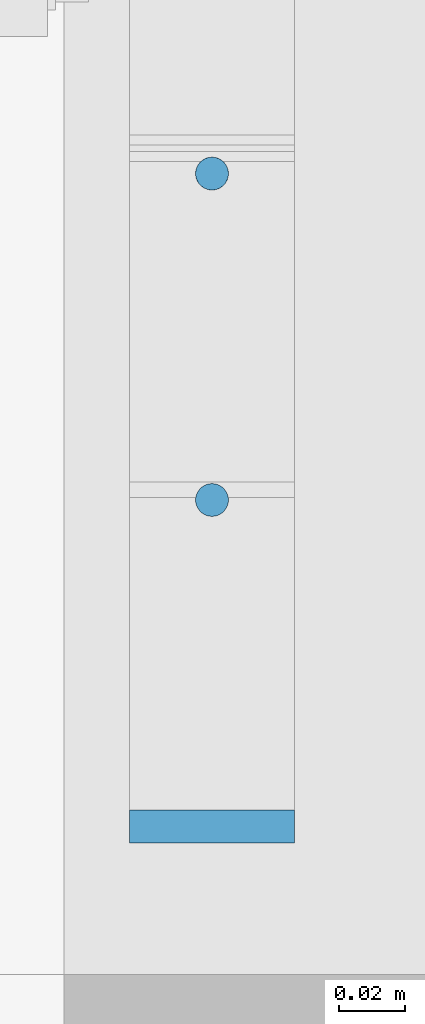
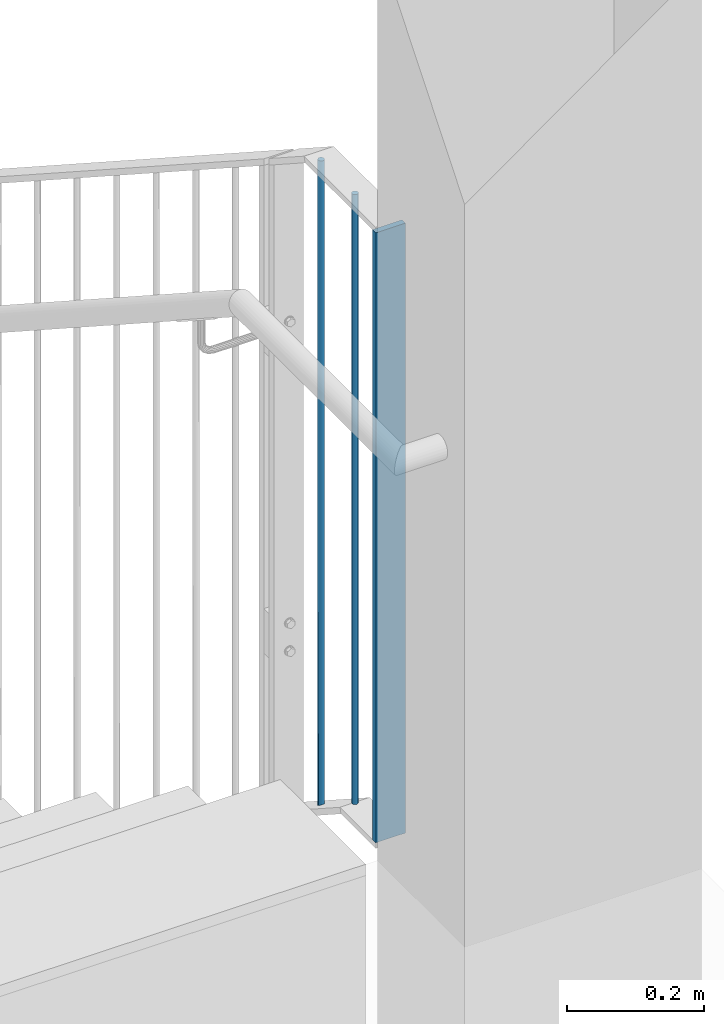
# One storey, part 25 of 296: 3 columns.
"""IFC2X3 building model written with IfcOpenShell, lengths in millimetres."""

from ifc_helpers import new_model, entity, si_unit, converted_unit, frame, origin, origin_with_axes, origin_2d, place, context, project, spatial, rectangle, circle, extrude, clip, halfspace, material, element, save


model = new_model("IFC2X3")

# Units and contexts
model_context = context("Model", 3, precision=1e-09, world=origin_with_axes())
ifc_project = project(units=[si_unit("LENGTHUNIT", "METRE", prefix="MILLI"), si_unit("AREAUNIT", "SQUARE_METRE"), si_unit("VOLUMEUNIT", "CUBIC_METRE"), converted_unit("PLANEANGLEUNIT", "DEGREE", entity("IfcPlaneAngleMeasure", 0.01745329), si_unit("PLANEANGLEUNIT", "RADIAN"), dimensions=[0, 0, 0, 0, 0, 0, 0])], contexts=[model_context])

# Site, building, storey
site_placement = place(None, origin_with_axes())
site = spatial("IfcSite", under=ifc_project, at=site_placement, Name="TZD-S?d | Treppenhausgel?nder", CompositionType="ELEMENT")
building_placement = place(site_placement, origin_with_axes())
building = spatial("IfcBuilding", under=site, at=building_placement, Name="Struktur 1", CompositionType="ELEMENT")
storey_placement = place(building_placement, origin_with_axes())
storey = spatial("IfcBuildingStorey", under=building, at=storey_placement, Name="Default Storey", CompositionType="ELEMENT", Elevation=0.0)

# Columns
ifc_material = material(Name="S235JR")
column_1_placement = place(None, frame((5894.999, -3531.666666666, 9721.848277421), z_axis=(0.0, 0.0, -1.0), x_axis=(0.0, 1.0, 0.0)))
element("IfcColumn", 1, at=column_1_placement, inside=storey, material=ifc_material, Name="-", ObjectType="-", context=model_context, shape_type="Clipping", body=[
    clip(extrude(circle(Radius=5.0, at=origin_2d()), origin(), (0.0, 0.0, -1.0), 1168.151722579), halfspace(frame((6930.390134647, -5894.999, 4474.167942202), z_axis=(0.543608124, 0.0, -0.839339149), x_axis=(0.0, -1.0, 0.0)), True)),
])
column_2_placement = place(None, frame((5894.999, -3730.0, 9800.0), z_axis=(0.0, 0.0, -1.0), x_axis=(0.0, 1.0, 0.0)))
element("IfcColumn", 2, at=column_2_placement, inside=storey, material=ifc_material, Name="-", ObjectType="-", context=model_context, shape_type="SweptSolid", body=[
    extrude(rectangle(XDim=10.0, YDim=50.0, at=origin_2d()), origin(), (0.0, 0.0, -1.0), 1090.0),
])
column_3_placement = place(None, frame((5894.999, -3630.833333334, 9800.0), z_axis=(0.0, 0.0, -1.0), x_axis=(0.0, 1.0, 0.0)))
element("IfcColumn", 3, at=column_3_placement, inside=storey, material=ifc_material, Name="-", ObjectType="-", context=model_context, shape_type="SweptSolid", body=[
    extrude(circle(Radius=5.0, at=origin_2d()), origin(), (0.0, 0.0, -1.0), 1090.0),
])

save(model, "model.ifc")
